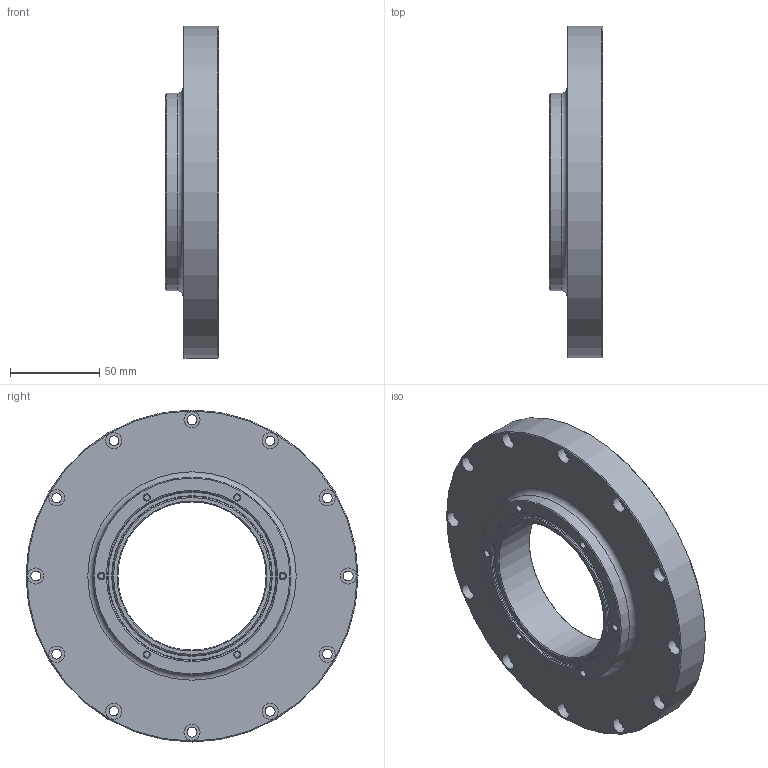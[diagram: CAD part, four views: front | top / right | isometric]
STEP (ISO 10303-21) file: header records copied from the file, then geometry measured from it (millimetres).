
FILE_DESCRIPTION(('FreeCAD Model'),'2;1');
FILE_NAME('Open CASCADE Shape Model','2025-03-25T15:41:05',(''),(''), 'Open CASCADE STEP processor 7.6','FreeCAD','Unknown');
FILE_SCHEMA(('CONFIG_CONTROL_DESIGN','SHAPE_APPEARANCE_LAYER_MIM'));
Length unit declared in the file: millimetre
Products named in the file (1): BoardFalngeInner
Bounding box: 30 x 186 x 186 mm (x, y, z)
Volume: 405021.5 mm3; surface area: 75094.2 mm2
Topology: 1 solids, 1 shells, 86 faces, 158 edges, 98 vertices
Faces by surface type: cylinder 38, plane 26, cone 12, torus 10
Full cylindrical faces by diameter (mm): 4 x6, 5.2 x2, 5.5 x10, 9 x12, 83 x1, 89 x1, 95 x1, 110.75 x1, 140 x1, 150 x1, 163 x1, 186 x1
Entity records: 2268 total; most frequent: DIRECTION 428, CARTESIAN_POINT 355, ORIENTED_EDGE 316, AXIS2_PLACEMENT_3D 195, EDGE_CURVE 158, FACE_BOUND 136, EDGE_LOOP 136, CIRCLE 108
